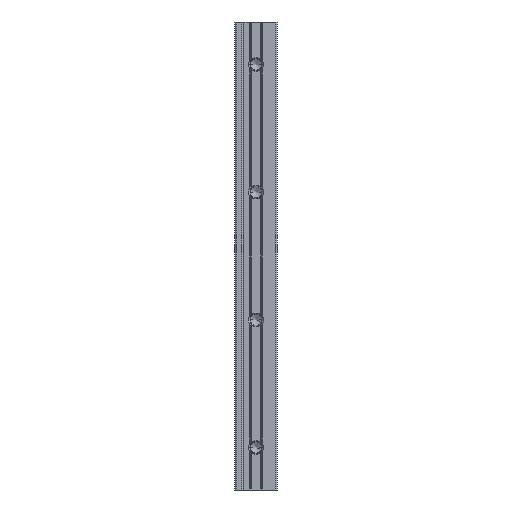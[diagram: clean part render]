
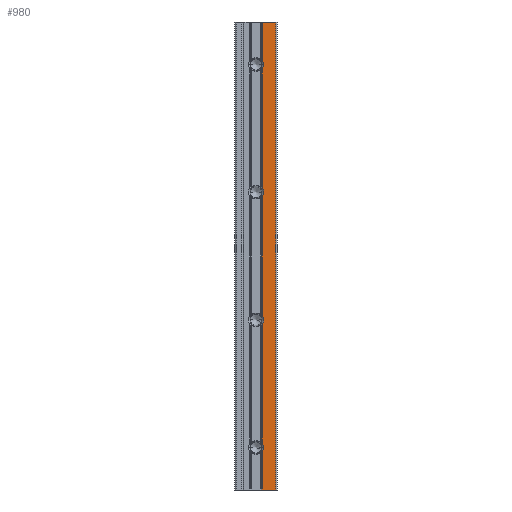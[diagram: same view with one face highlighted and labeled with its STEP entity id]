
A CAD part, front view. The second image highlights one B-rep face of the part: STEP entity #980.
In plain terms, the highlighted planar face has unit normal (0, -1, 0).
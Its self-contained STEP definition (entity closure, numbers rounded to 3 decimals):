
#69 = CARTESIAN_POINT ( 'NONE',  ( 10., 0., -80. ) ) ;
#70 = ORIENTED_EDGE ( 'NONE', *, *, #2550, .T. ) ;
#152 = ORIENTED_EDGE ( 'NONE', *, *, #1873, .T. ) ;
#154 = DIRECTION ( 'NONE',  ( 0., 0., 1. ) ) ;
#190 = CIRCLE ( 'NONE', #2347, 3.65 ) ;
#243 = DIRECTION ( 'NONE',  ( -1., 0., 0. ) ) ;
#255 = DIRECTION ( 'NONE',  ( -1., 0., 0. ) ) ;
#257 = ORIENTED_EDGE ( 'NONE', *, *, #2630, .T. ) ;
#259 = DIRECTION ( 'NONE',  ( 0., 0., 1. ) ) ;
#314 = CARTESIAN_POINT ( 'NONE',  ( 13., 0., -220. ) ) ;
#326 = VERTEX_POINT ( 'NONE', #2834 ) ;
#357 = VECTOR ( 'NONE', #952, 1000. ) ;
#372 = CARTESIAN_POINT ( 'NONE',  ( 13., 0., -17.921 ) ) ;
#425 = VERTEX_POINT ( 'NONE', #699 ) ;
#427 = CARTESIAN_POINT ( 'NONE',  ( 13., 0., -137.921 ) ) ;
#477 = ORIENTED_EDGE ( 'NONE', *, *, #1404, .F. ) ;
#484 = CIRCLE ( 'NONE', #1214, 3.65 ) ;
#498 = CARTESIAN_POINT ( 'NONE',  ( 13., 0., -220. ) ) ;
#559 = DIRECTION ( 'NONE',  ( 0., 1., 0. ) ) ;
#565 = DIRECTION ( 'NONE',  ( -1., 0., 0. ) ) ;
#568 = DIRECTION ( 'NONE',  ( 0., 1., 0. ) ) ;
#572 = CARTESIAN_POINT ( 'NONE',  ( 13., 0., -220. ) ) ;
#606 = CARTESIAN_POINT ( 'NONE',  ( 13.65, 0., -140. ) ) ;
#635 = DIRECTION ( 'NONE',  ( -1., 0., 0. ) ) ;
#661 = AXIS2_PLACEMENT_3D ( 'NONE', #870, #559, #243 ) ;
#666 = CIRCLE ( 'NONE', #2087, 3.65 ) ;
#699 = CARTESIAN_POINT ( 'NONE',  ( 13., 0., -77.921 ) ) ;
#716 = CARTESIAN_POINT ( 'NONE',  ( 13., 0., -197.921 ) ) ;
#732 = ORIENTED_EDGE ( 'NONE', *, *, #2651, .F. ) ;
#741 = CARTESIAN_POINT ( 'NONE',  ( 19.4, 0., -220. ) ) ;
#783 = ORIENTED_EDGE ( 'NONE', *, *, #2020, .F. ) ;
#786 = AXIS2_PLACEMENT_3D ( 'NONE', #1272, #963, #635 ) ;
#806 = LINE ( 'NONE', #498, #1921 ) ;
#848 = DIRECTION ( 'NONE',  ( 1., 0., 0. ) ) ;
#851 = VERTEX_POINT ( 'NONE', #606 ) ;
#870 = CARTESIAN_POINT ( 'NONE',  ( 10., 0., -200. ) ) ;
#876 = DIRECTION ( 'NONE',  ( 0., 1., 0. ) ) ;
#879 = CARTESIAN_POINT ( 'NONE',  ( 10., 0., -20. ) ) ;
#885 = LINE ( 'NONE', #572, #2193 ) ;
#921 = EDGE_CURVE ( 'NONE', #851, #1990, #484, .T. ) ;
#928 = EDGE_CURVE ( 'NONE', #1526, #851, #3119, .T. ) ;
#947 = DIRECTION ( 'NONE',  ( -1., 0., 0. ) ) ;
#952 = DIRECTION ( 'NONE',  ( 0., 0., 1. ) ) ;
#963 = DIRECTION ( 'NONE',  ( 0., 1., 0. ) ) ;
#966 = DIRECTION ( 'NONE',  ( 0., 0., -1. ) ) ;
#973 = VERTEX_POINT ( 'NONE', #1929 ) ;
#980 = ADVANCED_FACE ( 'NONE', ( #2743 ), #2229, .T. ) ;
#995 = EDGE_CURVE ( 'NONE', #1409, #3005, #2406, .T. ) ;
#998 = ORIENTED_EDGE ( 'NONE', *, *, #1925, .F. ) ;
#1006 = VERTEX_POINT ( 'NONE', #2415 ) ;
#1028 = VERTEX_POINT ( 'NONE', #2085 ) ;
#1079 = ORIENTED_EDGE ( 'NONE', *, *, #2538, .F. ) ;
#1080 = VERTEX_POINT ( 'NONE', #741 ) ;
#1107 = ORIENTED_EDGE ( 'NONE', *, *, #2336, .T. ) ;
#1113 = ORIENTED_EDGE ( 'NONE', *, *, #1234, .T. ) ;
#1170 = CARTESIAN_POINT ( 'NONE',  ( 13., 0., -220. ) ) ;
#1201 = ORIENTED_EDGE ( 'NONE', *, *, #995, .T. ) ;
#1214 = AXIS2_PLACEMENT_3D ( 'NONE', #2537, #2217, #1912 ) ;
#1229 = VERTEX_POINT ( 'NONE', #372 ) ;
#1231 = CARTESIAN_POINT ( 'NONE',  ( 13., 0., -82.079 ) ) ;
#1234 = EDGE_CURVE ( 'NONE', #1080, #326, #2535, .T. ) ;
#1250 = VECTOR ( 'NONE', #1910, 1000. ) ;
#1260 = DIRECTION ( 'NONE',  ( 0., 1., 0. ) ) ;
#1263 = CARTESIAN_POINT ( 'NONE',  ( 13., 0., -220. ) ) ;
#1271 = ORIENTED_EDGE ( 'NONE', *, *, #2904, .T. ) ;
#1272 = CARTESIAN_POINT ( 'NONE',  ( 10., 0., -20. ) ) ;
#1273 = DIRECTION ( 'NONE',  ( 0., -1., 0. ) ) ;
#1378 = EDGE_CURVE ( 'NONE', #1633, #1006, #2884, .T. ) ;
#1380 = CARTESIAN_POINT ( 'NONE',  ( 13., 0., -142.079 ) ) ;
#1404 = EDGE_CURVE ( 'NONE', #1526, #3005, #806, .T. ) ;
#1409 = VERTEX_POINT ( 'NONE', #1699 ) ;
#1464 = AXIS2_PLACEMENT_3D ( 'NONE', #1585, #1260, #947 ) ;
#1503 = LINE ( 'NONE', #1170, #2508 ) ;
#1526 = VERTEX_POINT ( 'NONE', #427 ) ;
#1530 = CARTESIAN_POINT ( 'NONE',  ( 10., 0., -80. ) ) ;
#1570 = AXIS2_PLACEMENT_3D ( 'NONE', #2522, #2206, #1896 ) ;
#1585 = CARTESIAN_POINT ( 'NONE',  ( 10., 0., -140. ) ) ;
#1587 = LINE ( 'NONE', #1263, #357 ) ;
#1600 = CARTESIAN_POINT ( 'NONE',  ( 13., 0., -220. ) ) ;
#1633 = VERTEX_POINT ( 'NONE', #1804 ) ;
#1699 = CARTESIAN_POINT ( 'NONE',  ( 13.65, 0., -80. ) ) ;
#1798 = VERTEX_POINT ( 'NONE', #716 ) ;
#1804 = CARTESIAN_POINT ( 'NONE',  ( 13.65, 0., -20. ) ) ;
#1815 = DIRECTION ( 'NONE',  ( 0., 0., 1. ) ) ;
#1835 = CARTESIAN_POINT ( 'NONE',  ( 13., 0., 0. ) ) ;
#1837 = VERTEX_POINT ( 'NONE', #314 ) ;
#1873 = EDGE_CURVE ( 'NONE', #1798, #973, #2101, .T. ) ;
#1896 = DIRECTION ( 'NONE',  ( -1., 0., 0. ) ) ;
#1910 = DIRECTION ( 'NONE',  ( 0., 0., 1. ) ) ;
#1912 = DIRECTION ( 'NONE',  ( -1., 0., 0. ) ) ;
#1921 = VECTOR ( 'NONE', #154, 1000. ) ;
#1925 = EDGE_CURVE ( 'NONE', #1798, #1990, #885, .T. ) ;
#1929 = CARTESIAN_POINT ( 'NONE',  ( 13.65, 0., -200. ) ) ;
#1954 = DIRECTION ( 'NONE',  ( 0., 0., 1. ) ) ;
#1960 = EDGE_LOOP ( 'NONE', ( #152, #257, #2241, #70, #1113, #1079, #732, #1271, #2914, #783, #1107, #1201, #477, #2589, #2207, #998 ) ) ;
#1990 = VERTEX_POINT ( 'NONE', #1380 ) ;
#2020 = EDGE_CURVE ( 'NONE', #425, #1006, #2586, .T. ) ;
#2085 = CARTESIAN_POINT ( 'NONE',  ( 13., 0., -202.079 ) ) ;
#2087 = AXIS2_PLACEMENT_3D ( 'NONE', #69, #2887, #2561 ) ;
#2101 = CIRCLE ( 'NONE', #661, 3.65 ) ;
#2136 = CARTESIAN_POINT ( 'NONE',  ( 13., 0., -220. ) ) ;
#2188 = VECTOR ( 'NONE', #2455, 1000. ) ;
#2193 = VECTOR ( 'NONE', #259, 1000. ) ;
#2206 = DIRECTION ( 'NONE',  ( 0., 1., 0. ) ) ;
#2207 = ORIENTED_EDGE ( 'NONE', *, *, #921, .T. ) ;
#2216 = CARTESIAN_POINT ( 'NONE',  ( 19.4, 0., -220. ) ) ;
#2217 = DIRECTION ( 'NONE',  ( 0., 1., 0. ) ) ;
#2229 = PLANE ( 'NONE',  #2579 ) ;
#2241 = ORIENTED_EDGE ( 'NONE', *, *, #2597, .F. ) ;
#2253 = CARTESIAN_POINT ( 'NONE',  ( 13., 0., -220. ) ) ;
#2275 = VERTEX_POINT ( 'NONE', #1835 ) ;
#2336 = EDGE_CURVE ( 'NONE', #425, #1409, #666, .T. ) ;
#2347 = AXIS2_PLACEMENT_3D ( 'NONE', #879, #568, #255 ) ;
#2351 = CIRCLE ( 'NONE', #1570, 3.65 ) ;
#2373 = VECTOR ( 'NONE', #1815, 1000. ) ;
#2406 = CIRCLE ( 'NONE', #2498, 3.65 ) ;
#2415 = CARTESIAN_POINT ( 'NONE',  ( 13., 0., -22.079 ) ) ;
#2455 = DIRECTION ( 'NONE',  ( 1., 0., 0. ) ) ;
#2456 = LINE ( 'NONE', #2136, #2373 ) ;
#2498 = AXIS2_PLACEMENT_3D ( 'NONE', #1530, #876, #565 ) ;
#2508 = VECTOR ( 'NONE', #848, 1000. ) ;
#2522 = CARTESIAN_POINT ( 'NONE',  ( 10., 0., -200. ) ) ;
#2535 = LINE ( 'NONE', #2216, #1250 ) ;
#2537 = CARTESIAN_POINT ( 'NONE',  ( 10., 0., -140. ) ) ;
#2538 = EDGE_CURVE ( 'NONE', #2275, #326, #3090, .T. ) ;
#2550 = EDGE_CURVE ( 'NONE', #1837, #1080, #1503, .T. ) ;
#2561 = DIRECTION ( 'NONE',  ( -1., 0., 0. ) ) ;
#2579 = AXIS2_PLACEMENT_3D ( 'NONE', #1600, #1273, #966 ) ;
#2586 = LINE ( 'NONE', #2253, #3077 ) ;
#2589 = ORIENTED_EDGE ( 'NONE', *, *, #928, .T. ) ;
#2597 = EDGE_CURVE ( 'NONE', #1837, #1028, #1587, .T. ) ;
#2630 = EDGE_CURVE ( 'NONE', #973, #1028, #2351, .T. ) ;
#2651 = EDGE_CURVE ( 'NONE', #1229, #2275, #2456, .T. ) ;
#2743 = FACE_OUTER_BOUND ( 'NONE', #1960, .T. ) ;
#2773 = CARTESIAN_POINT ( 'NONE',  ( 13., 0., 0. ) ) ;
#2834 = CARTESIAN_POINT ( 'NONE',  ( 19.4, 0., 0. ) ) ;
#2884 = CIRCLE ( 'NONE', #786, 3.65 ) ;
#2887 = DIRECTION ( 'NONE',  ( 0., 1., 0. ) ) ;
#2904 = EDGE_CURVE ( 'NONE', #1229, #1633, #190, .T. ) ;
#2914 = ORIENTED_EDGE ( 'NONE', *, *, #1378, .T. ) ;
#3005 = VERTEX_POINT ( 'NONE', #1231 ) ;
#3077 = VECTOR ( 'NONE', #1954, 1000. ) ;
#3090 = LINE ( 'NONE', #2773, #2188 ) ;
#3119 = CIRCLE ( 'NONE', #1464, 3.65 ) ;
